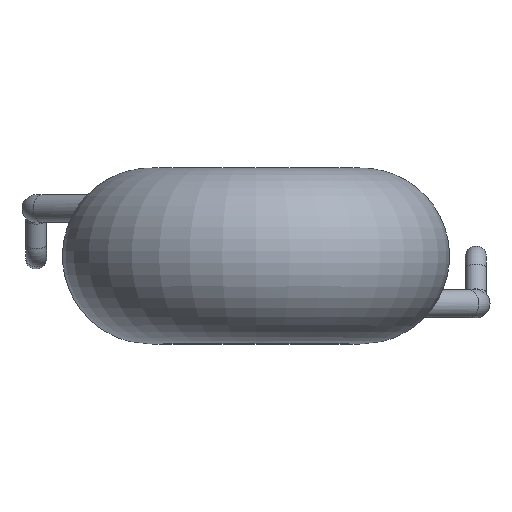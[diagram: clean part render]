
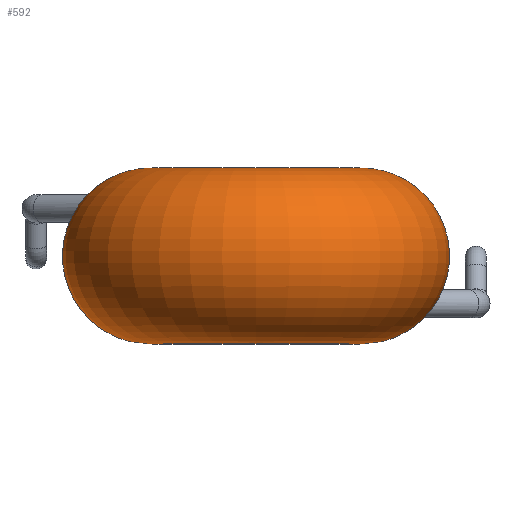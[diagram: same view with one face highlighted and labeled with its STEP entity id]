
A CAD part, top view. The second image highlights one B-rep face of the part: STEP entity #592.
In plain terms, the highlighted toroidal (fillet/blend) face has major radius 3 mm and minor radius 2.5 mm.
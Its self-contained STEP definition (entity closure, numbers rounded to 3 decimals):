
#457=CARTESIAN_POINT('',(4.504,0.463,-3.127));
#458=VERTEX_POINT('',#457);
#491=CARTESIAN_POINT('',(4.504,0.463,-3.127));
#492=CARTESIAN_POINT('',(4.585,0.449,-3.008));
#493=CARTESIAN_POINT('',(4.727,0.359,-2.765));
#494=CARTESIAN_POINT('',(4.827,0.082,-2.461));
#495=CARTESIAN_POINT('',(4.792,-0.264,-2.255));
#496=CARTESIAN_POINT('',(4.628,-0.613,-2.161));
#497=CARTESIAN_POINT('',(4.365,-0.912,-2.182));
#498=CARTESIAN_POINT('',(4.088,-1.088,-2.319));
#499=CARTESIAN_POINT('',(3.88,-1.149,-2.523));
#500=CARTESIAN_POINT('',(3.714,-1.144,-2.774));
#501=CARTESIAN_POINT('',(3.626,-1.057,-3.043));
#502=CARTESIAN_POINT('',(3.592,-0.919,-3.28));
#503=CARTESIAN_POINT('',(3.587,-0.751,-3.492));
#504=CARTESIAN_POINT('',(3.63,-0.492,-3.698));
#505=CARTESIAN_POINT('',(3.76,-0.132,-3.806));
#506=CARTESIAN_POINT('',(3.972,0.213,-3.732));
#507=CARTESIAN_POINT('',(4.242,0.443,-3.481));
#508=CARTESIAN_POINT('',(4.424,0.477,-3.246));
#509=CARTESIAN_POINT('',(4.504,0.463,-3.127));
#510=B_SPLINE_CURVE_WITH_KNOTS('',3,(#491,#492,#493,#494,#495,#496,#497,#498,#499,#500,#501,#502,#503,#504,#505,#506,#507,#508,#509),.UNSPECIFIED.,.T.,.U.,(4,1,1,1,1,1,1,1,1,1,1,1,1,1,1,1,4),(0.0,0.02,0.04,0.06,0.08,0.099,0.119,0.129,0.139,0.159,0.169,0.179,0.199,0.219,0.239,0.259,0.278),.UNSPECIFIED.);
#511=EDGE_CURVE('',#458,#458,#510,.T.);
#536=CARTESIAN_POINT('',(0.,0.75,0.));
#537=DIRECTION('',(0.,-1.0,0.));
#538=DIRECTION('',(0.0,0.0,1.0));
#539=AXIS2_PLACEMENT_3D('',#536,#537,#538);
#540=TOROIDAL_SURFACE('',#539,3.0,2.5);
#541=CARTESIAN_POINT('',(0.,3.25,3.0));
#542=VERTEX_POINT('',#541);
#543=CARTESIAN_POINT('',(0.,3.25,0.));
#544=DIRECTION('',(0.0,-1.0,0.0));
#545=DIRECTION('',(0.0,0.0,-1.0));
#546=AXIS2_PLACEMENT_3D('',#543,#544,#545);
#547=CIRCLE('',#546,3.0);
#548=EDGE_CURVE('',#542,#542,#547,.T.);
#549=ORIENTED_EDGE('',*,*,#548,.T.);
#550=EDGE_LOOP('',(#549));
#551=FACE_OUTER_BOUND('',#550,.T.);
#552=CARTESIAN_POINT('',(0.,-1.75,3.0));
#553=VERTEX_POINT('',#552);
#554=CARTESIAN_POINT('',(0.,-1.75,0.));
#555=DIRECTION('',(0.0,1.0,0.0));
#556=DIRECTION('',(0.0,0.0,-1.0));
#557=AXIS2_PLACEMENT_3D('',#554,#555,#556);
#558=CIRCLE('',#557,3.0);
#559=EDGE_CURVE('',#553,#553,#558,.T.);
#560=ORIENTED_EDGE('',*,*,#559,.T.);
#561=EDGE_LOOP('',(#560));
#562=FACE_BOUND('',#561,.T.);
#563=CARTESIAN_POINT('',(-4.504,1.037,-3.127));
#564=VERTEX_POINT('',#563);
#565=CARTESIAN_POINT('',(-4.504,1.037,-3.127));
#566=CARTESIAN_POINT('',(-4.585,1.051,-3.008));
#567=CARTESIAN_POINT('',(-4.727,1.141,-2.765));
#568=CARTESIAN_POINT('',(-4.827,1.418,-2.461));
#569=CARTESIAN_POINT('',(-4.792,1.764,-2.255));
#570=CARTESIAN_POINT('',(-4.628,2.113,-2.161));
#571=CARTESIAN_POINT('',(-4.365,2.412,-2.182));
#572=CARTESIAN_POINT('',(-4.088,2.588,-2.319));
#573=CARTESIAN_POINT('',(-3.88,2.649,-2.523));
#574=CARTESIAN_POINT('',(-3.714,2.644,-2.774));
#575=CARTESIAN_POINT('',(-3.626,2.557,-3.043));
#576=CARTESIAN_POINT('',(-3.592,2.419,-3.28));
#577=CARTESIAN_POINT('',(-3.587,2.251,-3.492));
#578=CARTESIAN_POINT('',(-3.63,1.992,-3.698));
#579=CARTESIAN_POINT('',(-3.76,1.632,-3.806));
#580=CARTESIAN_POINT('',(-3.972,1.287,-3.732));
#581=CARTESIAN_POINT('',(-4.242,1.057,-3.481));
#582=CARTESIAN_POINT('',(-4.424,1.023,-3.246));
#583=CARTESIAN_POINT('',(-4.504,1.037,-3.127));
#584=B_SPLINE_CURVE_WITH_KNOTS('',3,(#565,#566,#567,#568,#569,#570,#571,#572,#573,#574,#575,#576,#577,#578,#579,#580,#581,#582,#583),.UNSPECIFIED.,.T.,.U.,(4,1,1,1,1,1,1,1,1,1,1,1,1,1,1,1,4),(0.0,0.02,0.04,0.06,0.08,0.099,0.119,0.129,0.139,0.159,0.169,0.179,0.199,0.219,0.239,0.259,0.278),.UNSPECIFIED.);
#585=EDGE_CURVE('',#564,#564,#584,.T.);
#586=ORIENTED_EDGE('',*,*,#585,.F.);
#587=EDGE_LOOP('',(#586));
#588=FACE_BOUND('',#587,.T.);
#589=ORIENTED_EDGE('',*,*,#511,.F.);
#590=EDGE_LOOP('',(#589));
#591=FACE_BOUND('',#590,.T.);
#592=ADVANCED_FACE('',(#551,#562,#588,#591),#540,.T.);
